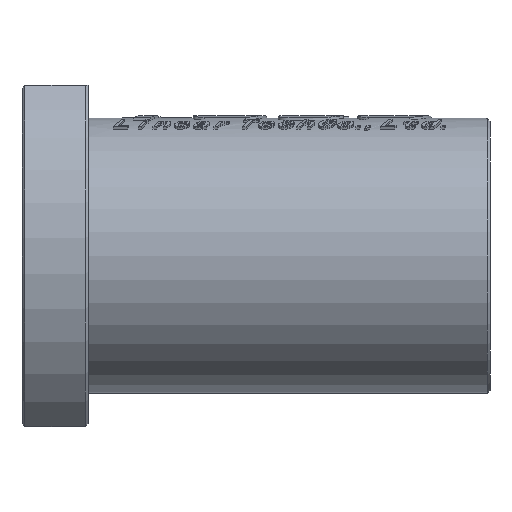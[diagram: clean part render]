
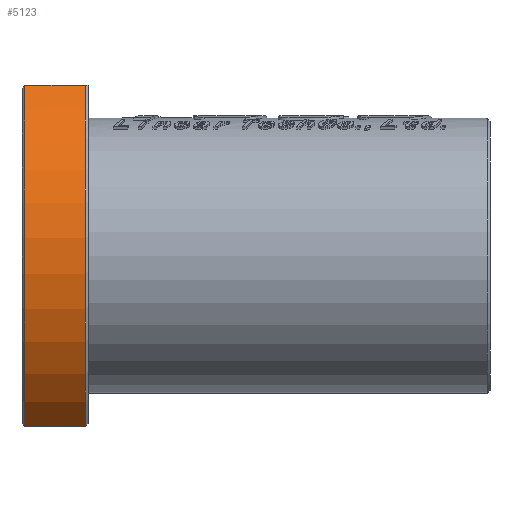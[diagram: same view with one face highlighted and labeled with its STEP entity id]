
A CAD part, front view. The second image highlights one B-rep face of the part: STEP entity #5123.
In plain terms, the highlighted cylindrical face has radius 40 mm (diameter 80 mm), a partial arc.
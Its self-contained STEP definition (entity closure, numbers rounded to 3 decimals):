
#1607 = DIRECTION ( 'NONE',  ( 0., 0., 1. ) ) ;
#3068 = ORIENTED_EDGE ( 'NONE', *, *, #18112, .F. ) ;
#4842 = DIRECTION ( 'NONE',  ( 1., 0., 0. ) ) ;
#4962 = CARTESIAN_POINT ( 'NONE',  ( -114.62, 2.767, 19.342 ) ) ;
#5123 = ADVANCED_FACE ( 'NONE', ( #24656 ), #6231, .T. ) ;
#5206 = CARTESIAN_POINT ( 'NONE',  ( -126.12, -22.511, 50.342 ) ) ;
#5760 = VERTEX_POINT ( 'NONE', #17469 ) ;
#6231 = CYLINDRICAL_SURFACE ( 'NONE', #11377, 40. ) ;
#7655 = AXIS2_PLACEMENT_3D ( 'NONE', #16790, #4842, #11741 ) ;
#9360 = CARTESIAN_POINT ( 'NONE',  ( -114.62, -22.511, 50.342 ) ) ;
#9721 = DIRECTION ( 'NONE',  ( -1., 0., 0. ) ) ;
#9768 = ORIENTED_EDGE ( 'NONE', *, *, #14403, .F. ) ;
#10365 = VERTEX_POINT ( 'NONE', #26423 ) ;
#11377 = AXIS2_PLACEMENT_3D ( 'NONE', #22651, #15576, #1607 ) ;
#11741 = DIRECTION ( 'NONE',  ( 0., 0., -1. ) ) ;
#14403 = EDGE_CURVE ( 'NONE', #26937, #10365, #27072, .T. ) ;
#15576 = DIRECTION ( 'NONE',  ( -1., 0., 0. ) ) ;
#16790 = CARTESIAN_POINT ( 'NONE',  ( -125.62, 2.767, 19.342 ) ) ;
#17469 = CARTESIAN_POINT ( 'NONE',  ( -125.62, -22.511, 50.342 ) ) ;
#17655 = VECTOR ( 'NONE', #20309, 1000. ) ;
#18083 = VERTEX_POINT ( 'NONE', #9360 ) ;
#18112 = EDGE_CURVE ( 'NONE', #5760, #18083, #21643, .T. ) ;
#19072 = DIRECTION ( 'NONE',  ( 0., 0., 1. ) ) ;
#20309 = DIRECTION ( 'NONE',  ( -1., 0., 0. ) ) ;
#21643 = LINE ( 'NONE', #5206, #26072 ) ;
#22651 = CARTESIAN_POINT ( 'NONE',  ( -126.12, 2.767, 19.342 ) ) ;
#23403 = CARTESIAN_POINT ( 'NONE',  ( -114.62, -22.511, -11.658 ) ) ;
#24656 = FACE_OUTER_BOUND ( 'NONE', #26232, .T. ) ;
#24798 = CIRCLE ( 'NONE', #7655, 40. ) ;
#25803 = EDGE_CURVE ( 'NONE', #26937, #18083, #28740, .T. ) ;
#26072 = VECTOR ( 'NONE', #28114, 1000. ) ;
#26232 = EDGE_LOOP ( 'NONE', ( #9768, #28184, #3068, #26653 ) ) ;
#26423 = CARTESIAN_POINT ( 'NONE',  ( -125.62, -22.511, -11.658 ) ) ;
#26653 = ORIENTED_EDGE ( 'NONE', *, *, #28786, .T. ) ;
#26937 = VERTEX_POINT ( 'NONE', #23403 ) ;
#27072 = LINE ( 'NONE', #29394, #17655 ) ;
#28114 = DIRECTION ( 'NONE',  ( 1., 0., 0. ) ) ;
#28184 = ORIENTED_EDGE ( 'NONE', *, *, #25803, .T. ) ;
#28740 = CIRCLE ( 'NONE', #30205, 40. ) ;
#28786 = EDGE_CURVE ( 'NONE', #5760, #10365, #24798, .T. ) ;
#29394 = CARTESIAN_POINT ( 'NONE',  ( -126.12, -22.511, -11.658 ) ) ;
#30205 = AXIS2_PLACEMENT_3D ( 'NONE', #4962, #9721, #19072 ) ;
